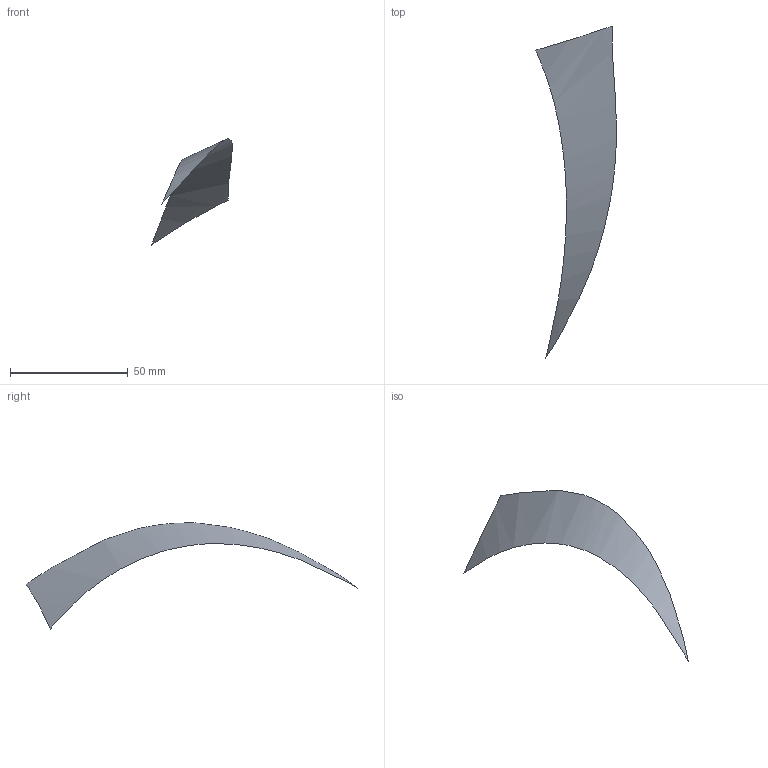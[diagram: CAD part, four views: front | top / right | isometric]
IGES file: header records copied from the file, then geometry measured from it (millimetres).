
Start section: START RECORD GO HERE
Global section: file name: s13.igs; native system: IBM CATIA IGES - CATIA SOLUTIONS V4RELEASE 1.9 REFRESH 01; preprocessor: CATIA SOLUTIONS V4RELEASE 1.9 REFRESH 01; author: cky; date: 990510.133752; units: millimetre
Bounding box: 34.31 x 140.88 x 45.07 mm (x, y, z)
Surface area: 2981.2 mm2 (no closed solid volume)
Topology: 0 solids, 0 shells, 1 faces, 32 edges, 32 vertices
Faces by surface type: bspline 1
